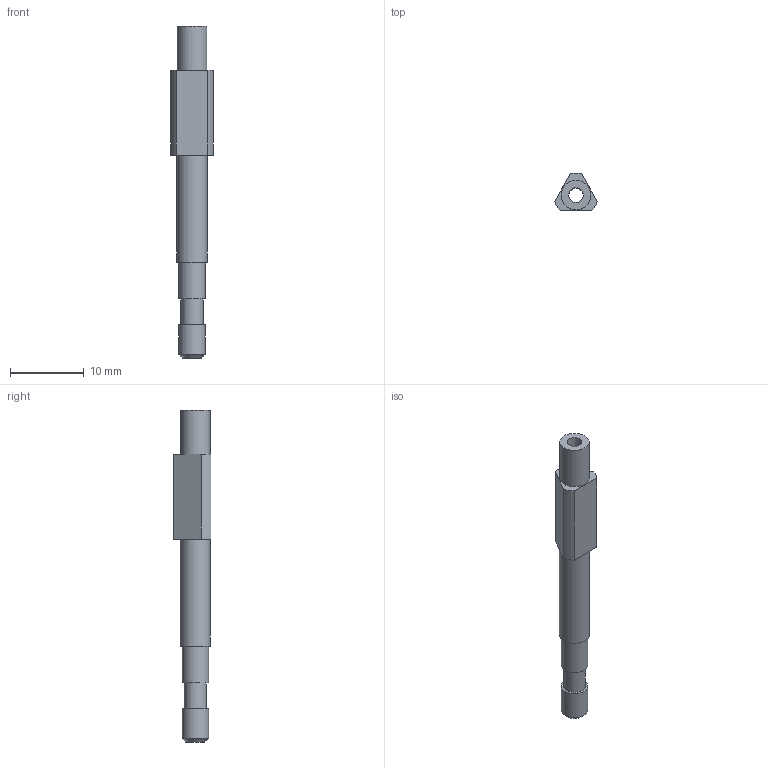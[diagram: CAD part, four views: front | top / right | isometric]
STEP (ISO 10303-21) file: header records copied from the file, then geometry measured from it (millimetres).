
FILE_DESCRIPTION((''),'2;1');
FILE_NAME('C:\Documents and Settings\mika1\Mes documents\pulverisation\MarcheLully\NewBuse\RaccordAir.stp','2016-07-28T21:26:04',('mika1'),(''),'Autodesk Inventor 2008','Autodesk Inventor 2008','');
FILE_SCHEMA(('AUTOMOTIVE_DESIGN { 1 0 10303 214 1 1 1 1 }'));
Length unit declared in the file: millimetre
Products named in the file (1): RaccordAir
Bounding box: 5.78 x 5.09 x 45 mm (x, y, z)
Volume: 479 mm3; surface area: 922.2 mm2
Topology: 1 solids, 1 shells, 20 faces, 38 edges, 25 vertices
Faces by surface type: plane 10, cylinder 9, cone 1
Full cylindrical faces by diameter (mm): 2 x1, 3 x1, 3.6 x2, 4 x1, 4.1 x1
Entity records: 508 total; most frequent: DIRECTION 92, CARTESIAN_POINT 77, ORIENTED_EDGE 62, AXIS2_PLACEMENT_3D 40, EDGE_LOOP 34, EDGE_CURVE 31, VERTEX_POINT 25, FACE_OUTER_BOUND 20
